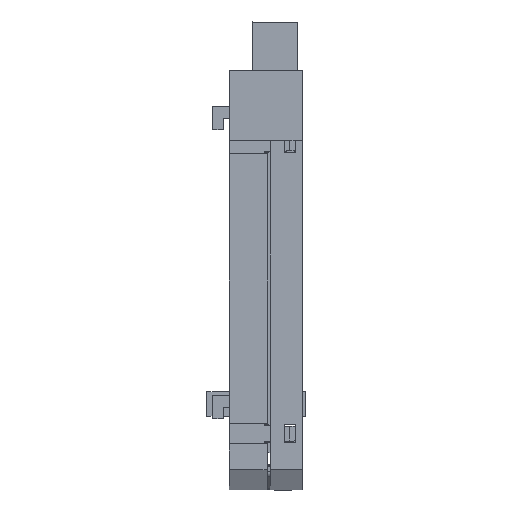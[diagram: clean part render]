
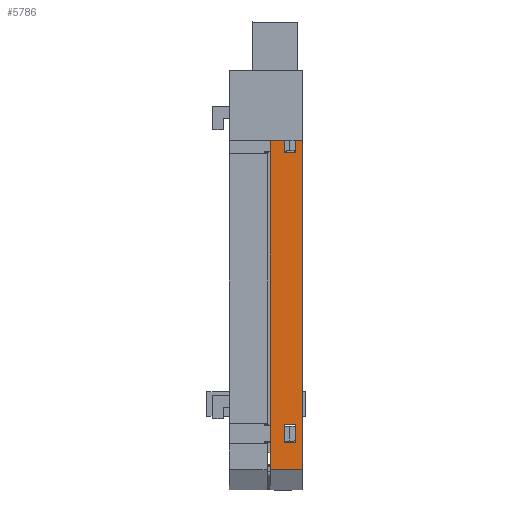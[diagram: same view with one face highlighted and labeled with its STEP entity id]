
A CAD part, front view. The second image highlights one B-rep face of the part: STEP entity #5786.
In plain terms, the highlighted planar face has unit normal (0, -1, 0).
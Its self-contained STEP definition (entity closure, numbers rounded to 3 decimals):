
#454 = CARTESIAN_POINT ( 'NONE',  ( 5.5, 0., 0. ) ) ;
#762 = LINE ( 'NONE', #454, #1563 ) ;
#1135 = VERTEX_POINT ( 'NONE', #13379 ) ;
#1244 = VERTEX_POINT ( 'NONE', #25383 ) ;
#1456 = ORIENTED_EDGE ( 'NONE', *, *, #6822, .T. ) ;
#1531 = EDGE_CURVE ( 'NONE', #14312, #28493, #3233, .T. ) ;
#1563 = VECTOR ( 'NONE', #31332, 1000. ) ;
#2359 = VERTEX_POINT ( 'NONE', #19183 ) ;
#2388 = FACE_OUTER_BOUND ( 'NONE', #18735, .T. ) ;
#3233 = LINE ( 'NONE', #29295, #9286 ) ;
#3931 = LINE ( 'NONE', #25147, #22948 ) ;
#4132 = CARTESIAN_POINT ( 'NONE',  ( 4.4, 0., -10.945 ) ) ;
#4364 = EDGE_CURVE ( 'NONE', #16633, #26418, #20725, .T. ) ;
#4424 = ORIENTED_EDGE ( 'NONE', *, *, #21802, .T. ) ;
#4750 = CARTESIAN_POINT ( 'NONE',  ( 2.4, 0., -57.545 ) ) ;
#5021 = PLANE ( 'NONE',  #10156 ) ;
#5039 = VERTEX_POINT ( 'NONE', #30696 ) ;
#5733 = EDGE_LOOP ( 'NONE', ( #11855, #9622, #12199, #4424 ) ) ;
#5786 = ADVANCED_FACE ( 'NONE', ( #29030, #9235, #2388 ), #5021, .F. ) ;
#5905 = VECTOR ( 'NONE', #28541, 1000. ) ;
#6235 = VERTEX_POINT ( 'NONE', #14752 ) ;
#6455 = CARTESIAN_POINT ( 'NONE',  ( 4.4, 0., -7.845 ) ) ;
#6689 = LINE ( 'NONE', #4132, #26498 ) ;
#6822 = EDGE_CURVE ( 'NONE', #2359, #26418, #3931, .T. ) ;
#6931 = VECTOR ( 'NONE', #14199, 1000. ) ;
#7008 = LINE ( 'NONE', #20278, #28421 ) ;
#7132 = LINE ( 'NONE', #4750, #26123 ) ;
#7316 = DIRECTION ( 'NONE',  ( 1., 0., 0. ) ) ;
#7603 = CARTESIAN_POINT ( 'NONE',  ( 0., 0., -65.25 ) ) ;
#7855 = CARTESIAN_POINT ( 'NONE',  ( 5.5, 0., 0. ) ) ;
#9088 = CARTESIAN_POINT ( 'NONE',  ( 2.4, 0., -60.645 ) ) ;
#9235 = FACE_BOUND ( 'NONE', #5733, .T. ) ;
#9286 = VECTOR ( 'NONE', #31855, 1000. ) ;
#9322 = DIRECTION ( 'NONE',  ( 0., 0., -1. ) ) ;
#9514 = VECTOR ( 'NONE', #33012, 1000. ) ;
#9622 = ORIENTED_EDGE ( 'NONE', *, *, #12088, .T. ) ;
#10015 = VECTOR ( 'NONE', #14043, 1000. ) ;
#10156 = AXIS2_PLACEMENT_3D ( 'NONE', #25698, #24804, #18072 ) ;
#11406 = CARTESIAN_POINT ( 'NONE',  ( 2.4, 0., -7.845 ) ) ;
#11855 = ORIENTED_EDGE ( 'NONE', *, *, #28823, .T. ) ;
#12088 = EDGE_CURVE ( 'NONE', #5039, #6235, #26284, .T. ) ;
#12199 = ORIENTED_EDGE ( 'NONE', *, *, #19765, .T. ) ;
#12268 = CARTESIAN_POINT ( 'NONE',  ( 2.4, 0., -60.645 ) ) ;
#12524 = ORIENTED_EDGE ( 'NONE', *, *, #22771, .T. ) ;
#13379 = CARTESIAN_POINT ( 'NONE',  ( 4.4, 0., -60.645 ) ) ;
#13560 = VECTOR ( 'NONE', #27724, 1000. ) ;
#14043 = DIRECTION ( 'NONE',  ( 1., 0., 0. ) ) ;
#14199 = DIRECTION ( 'NONE',  ( -1., 0., 0. ) ) ;
#14312 = VERTEX_POINT ( 'NONE', #15179 ) ;
#14425 = EDGE_CURVE ( 'NONE', #1244, #2359, #33373, .T. ) ;
#14724 = EDGE_CURVE ( 'NONE', #30684, #14312, #6689, .T. ) ;
#14752 = CARTESIAN_POINT ( 'NONE',  ( 2.4, 0., -57.545 ) ) ;
#15179 = CARTESIAN_POINT ( 'NONE',  ( 4.4, 0., -10.945 ) ) ;
#15622 = CARTESIAN_POINT ( 'NONE',  ( 4.4, 0., -57.545 ) ) ;
#16633 = VERTEX_POINT ( 'NONE', #24367 ) ;
#18072 = DIRECTION ( 'NONE',  ( 0., 0., 1. ) ) ;
#18270 = VERTEX_POINT ( 'NONE', #15622 ) ;
#18384 = EDGE_CURVE ( 'NONE', #1244, #16633, #762, .T. ) ;
#18429 = ORIENTED_EDGE ( 'NONE', *, *, #14425, .T. ) ;
#18735 = EDGE_LOOP ( 'NONE', ( #1456, #26382, #20519, #18429 ) ) ;
#19183 = CARTESIAN_POINT ( 'NONE',  ( 0., 0., 0. ) ) ;
#19314 = CARTESIAN_POINT ( 'NONE',  ( 5.5, 0., -65.25 ) ) ;
#19765 = EDGE_CURVE ( 'NONE', #6235, #18270, #7132, .T. ) ;
#20278 = CARTESIAN_POINT ( 'NONE',  ( 2.4, 0., -10.945 ) ) ;
#20410 = EDGE_LOOP ( 'NONE', ( #12524, #21167, #30718, #32598 ) ) ;
#20519 = ORIENTED_EDGE ( 'NONE', *, *, #18384, .F. ) ;
#20688 = VERTEX_POINT ( 'NONE', #21775 ) ;
#20725 = LINE ( 'NONE', #19314, #6931 ) ;
#20983 = EDGE_CURVE ( 'NONE', #20688, #30684, #29784, .T. ) ;
#21167 = ORIENTED_EDGE ( 'NONE', *, *, #20983, .T. ) ;
#21775 = CARTESIAN_POINT ( 'NONE',  ( 2.4, 0., -7.845 ) ) ;
#21802 = EDGE_CURVE ( 'NONE', #18270, #1135, #30903, .T. ) ;
#22771 = EDGE_CURVE ( 'NONE', #28493, #20688, #7008, .T. ) ;
#22948 = VECTOR ( 'NONE', #27747, 1000. ) ;
#24367 = CARTESIAN_POINT ( 'NONE',  ( 5.5, 0., -65.25 ) ) ;
#24804 = DIRECTION ( 'NONE',  ( 0., 1., 0. ) ) ;
#25147 = CARTESIAN_POINT ( 'NONE',  ( 0., 0., 0. ) ) ;
#25241 = CARTESIAN_POINT ( 'NONE',  ( 4.4, 0., -60.645 ) ) ;
#25293 = DIRECTION ( 'NONE',  ( 0., 0., 1. ) ) ;
#25383 = CARTESIAN_POINT ( 'NONE',  ( 5.5, 0., 0. ) ) ;
#25698 = CARTESIAN_POINT ( 'NONE',  ( 5.5, 0., 0. ) ) ;
#26123 = VECTOR ( 'NONE', #7316, 1000. ) ;
#26284 = LINE ( 'NONE', #9088, #32293 ) ;
#26382 = ORIENTED_EDGE ( 'NONE', *, *, #4364, .F. ) ;
#26418 = VERTEX_POINT ( 'NONE', #7603 ) ;
#26498 = VECTOR ( 'NONE', #9322, 1000. ) ;
#26617 = CARTESIAN_POINT ( 'NONE',  ( 2.4, 0., -10.945 ) ) ;
#27246 = LINE ( 'NONE', #12268, #13560 ) ;
#27724 = DIRECTION ( 'NONE',  ( -1., 0., 0. ) ) ;
#27747 = DIRECTION ( 'NONE',  ( 0., 0., -1. ) ) ;
#28421 = VECTOR ( 'NONE', #25293, 1000. ) ;
#28493 = VERTEX_POINT ( 'NONE', #26617 ) ;
#28541 = DIRECTION ( 'NONE',  ( -1., 0., 0. ) ) ;
#28823 = EDGE_CURVE ( 'NONE', #1135, #5039, #27246, .T. ) ;
#29030 = FACE_BOUND ( 'NONE', #20410, .T. ) ;
#29295 = CARTESIAN_POINT ( 'NONE',  ( 2.4, 0., -10.945 ) ) ;
#29754 = DIRECTION ( 'NONE',  ( 0., 0., 1. ) ) ;
#29784 = LINE ( 'NONE', #11406, #10015 ) ;
#30684 = VERTEX_POINT ( 'NONE', #6455 ) ;
#30696 = CARTESIAN_POINT ( 'NONE',  ( 2.4, 0., -60.645 ) ) ;
#30718 = ORIENTED_EDGE ( 'NONE', *, *, #14724, .T. ) ;
#30903 = LINE ( 'NONE', #25241, #9514 ) ;
#31332 = DIRECTION ( 'NONE',  ( 0., 0., -1. ) ) ;
#31855 = DIRECTION ( 'NONE',  ( -1., 0., 0. ) ) ;
#32293 = VECTOR ( 'NONE', #29754, 1000. ) ;
#32598 = ORIENTED_EDGE ( 'NONE', *, *, #1531, .T. ) ;
#33012 = DIRECTION ( 'NONE',  ( 0., 0., -1. ) ) ;
#33373 = LINE ( 'NONE', #7855, #5905 ) ;
